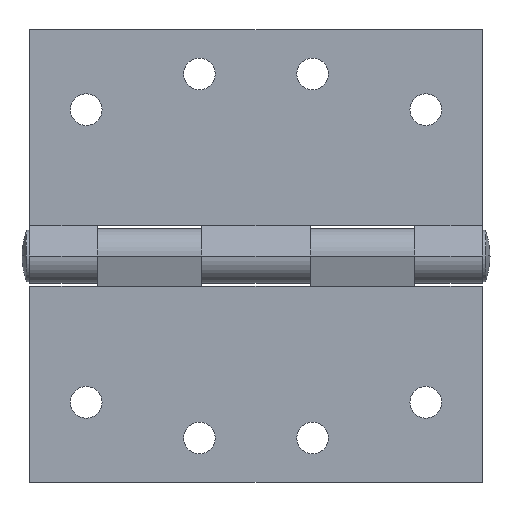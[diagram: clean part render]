
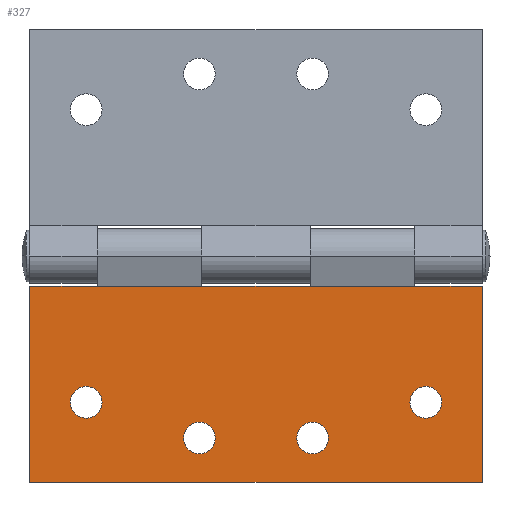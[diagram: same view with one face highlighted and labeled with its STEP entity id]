
A CAD part, front view. The second image highlights one B-rep face of the part: STEP entity #327.
In plain terms, the highlighted planar face has unit normal (0, -1, 0).
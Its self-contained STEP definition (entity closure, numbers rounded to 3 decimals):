
#8 = CARTESIAN_POINT ( 'NONE',  ( 50., -2.5, -43.37 ) ) ;
#53 = EDGE_CURVE ( 'NONE', #2864, #2883, #2210, .T. ) ;
#63 = CARTESIAN_POINT ( 'NONE',  ( 50., -2.5, 0. ) ) ;
#99 = DIRECTION ( 'NONE',  ( -1., 0., 0. ) ) ;
#124 = LINE ( 'NONE', #3688, #1813 ) ;
#153 = ORIENTED_EDGE ( 'NONE', *, *, #2624, .T. ) ;
#182 = CARTESIAN_POINT ( 'NONE',  ( 37.5, -2.5, -22.17 ) ) ;
#212 = CIRCLE ( 'NONE', #2574, 3.5 ) ;
#225 = DIRECTION ( 'NONE',  ( 0., 1., 0. ) ) ;
#327 = ADVANCED_FACE ( 'NONE', ( #2334, #2892, #1318, #3295, #1542 ), #334, .F. ) ;
#334 = PLANE ( 'NONE',  #2273 ) ;
#335 = VERTEX_POINT ( 'NONE', #3337 ) ;
#336 = EDGE_CURVE ( 'NONE', #3454, #3464, #1406, .T. ) ;
#367 = DIRECTION ( 'NONE',  ( -1., 0., 0. ) ) ;
#399 = VERTEX_POINT ( 'NONE', #3324 ) ;
#422 = DIRECTION ( 'NONE',  ( 0., 1., 0. ) ) ;
#443 = DIRECTION ( 'NONE',  ( 0., 0., 1. ) ) ;
#445 = VERTEX_POINT ( 'NONE', #1886 ) ;
#449 = CARTESIAN_POINT ( 'NONE',  ( -12.5, -2.5, -37.07 ) ) ;
#483 = ORIENTED_EDGE ( 'NONE', *, *, #1692, .T. ) ;
#488 = VERTEX_POINT ( 'NONE', #449 ) ;
#515 = EDGE_CURVE ( 'NONE', #1126, #2701, #124, .T. ) ;
#622 = ORIENTED_EDGE ( 'NONE', *, *, #336, .T. ) ;
#669 = CARTESIAN_POINT ( 'NONE',  ( 12.5, -2.5, -30.07 ) ) ;
#715 = CARTESIAN_POINT ( 'NONE',  ( -35., -2.5, 0. ) ) ;
#745 = CARTESIAN_POINT ( 'NONE',  ( 50., -2.5, 0. ) ) ;
#753 = ORIENTED_EDGE ( 'NONE', *, *, #3006, .T. ) ;
#778 = VERTEX_POINT ( 'NONE', #2363 ) ;
#785 = LINE ( 'NONE', #63, #1480 ) ;
#859 = EDGE_LOOP ( 'NONE', ( #3470, #1356 ) ) ;
#874 = VECTOR ( 'NONE', #3199, 1000. ) ;
#882 = EDGE_CURVE ( 'NONE', #488, #399, #2697, .T. ) ;
#989 = DIRECTION ( 'NONE',  ( 0., 1., 0. ) ) ;
#1086 = CARTESIAN_POINT ( 'NONE',  ( -50., -2.5, 0. ) ) ;
#1126 = VERTEX_POINT ( 'NONE', #8 ) ;
#1199 = DIRECTION ( 'NONE',  ( 0., 1., 0. ) ) ;
#1226 = VERTEX_POINT ( 'NONE', #669 ) ;
#1236 = DIRECTION ( 'NONE',  ( 0., 0., 1. ) ) ;
#1255 = DIRECTION ( 'NONE',  ( 0., 0., 1. ) ) ;
#1296 = DIRECTION ( 'NONE',  ( 0., 1., 0. ) ) ;
#1318 = FACE_BOUND ( 'NONE', #1836, .T. ) ;
#1324 = DIRECTION ( 'NONE',  ( 0., 0., 1. ) ) ;
#1351 = CARTESIAN_POINT ( 'NONE',  ( 50., -2.5, -37.37 ) ) ;
#1356 = ORIENTED_EDGE ( 'NONE', *, *, #3832, .T. ) ;
#1406 = LINE ( 'NONE', #1603, #3666 ) ;
#1416 = EDGE_CURVE ( 'NONE', #1956, #1226, #3431, .T. ) ;
#1432 = EDGE_LOOP ( 'NONE', ( #3358, #3626 ) ) ;
#1437 = LINE ( 'NONE', #2405, #1949 ) ;
#1480 = VECTOR ( 'NONE', #367, 1000. ) ;
#1509 = DIRECTION ( 'NONE',  ( 0., 1., 0. ) ) ;
#1521 = EDGE_CURVE ( 'NONE', #3733, #2517, #2463, .T. ) ;
#1531 = CIRCLE ( 'NONE', #3430, 3.5 ) ;
#1542 = FACE_OUTER_BOUND ( 'NONE', #3135, .T. ) ;
#1559 = DIRECTION ( 'NONE',  ( 0., 0., 1. ) ) ;
#1587 = CARTESIAN_POINT ( 'NONE',  ( 37.5, -2.5, -25.67 ) ) ;
#1603 = CARTESIAN_POINT ( 'NONE',  ( 50., -2.5, 0. ) ) ;
#1608 = CARTESIAN_POINT ( 'NONE',  ( 12.5, -2.5, -33.57 ) ) ;
#1623 = CARTESIAN_POINT ( 'NONE',  ( 12.5, -2.5, -37.07 ) ) ;
#1649 = DIRECTION ( 'NONE',  ( -1., 0., 0. ) ) ;
#1650 = AXIS2_PLACEMENT_3D ( 'NONE', #1608, #1296, #1324 ) ;
#1666 = EDGE_CURVE ( 'NONE', #1795, #335, #2915, .T. ) ;
#1676 = EDGE_CURVE ( 'NONE', #399, #488, #1531, .T. ) ;
#1692 = EDGE_CURVE ( 'NONE', #3464, #445, #2415, .T. ) ;
#1720 = VECTOR ( 'NONE', #1649, 1000. ) ;
#1733 = CARTESIAN_POINT ( 'NONE',  ( 37.5, -2.5, -25.67 ) ) ;
#1742 = EDGE_CURVE ( 'NONE', #2517, #2701, #1437, .T. ) ;
#1795 = VERTEX_POINT ( 'NONE', #3333 ) ;
#1813 = VECTOR ( 'NONE', #99, 1000. ) ;
#1826 = DIRECTION ( 'NONE',  ( 0., 1., 0. ) ) ;
#1836 = EDGE_LOOP ( 'NONE', ( #753, #3177 ) ) ;
#1864 = EDGE_CURVE ( 'NONE', #1126, #3454, #2184, .T. ) ;
#1865 = EDGE_CURVE ( 'NONE', #1226, #1956, #2920, .T. ) ;
#1886 = CARTESIAN_POINT ( 'NONE',  ( 12., -2.5, 0. ) ) ;
#1949 = VECTOR ( 'NONE', #2996, 1000. ) ;
#1955 = DIRECTION ( 'NONE',  ( 0., 0., 1. ) ) ;
#1956 = VERTEX_POINT ( 'NONE', #1623 ) ;
#2038 = DIRECTION ( 'NONE',  ( 0., 0., 1. ) ) ;
#2059 = AXIS2_PLACEMENT_3D ( 'NONE', #3710, #422, #2265 ) ;
#2127 = CARTESIAN_POINT ( 'NONE',  ( 50., -2.5, 0. ) ) ;
#2184 = LINE ( 'NONE', #1351, #3228 ) ;
#2210 = CIRCLE ( 'NONE', #3829, 3.5 ) ;
#2214 = DIRECTION ( 'NONE',  ( 0., 1., 0. ) ) ;
#2265 = DIRECTION ( 'NONE',  ( 0., 0., 1. ) ) ;
#2273 = AXIS2_PLACEMENT_3D ( 'NONE', #2781, #989, #1255 ) ;
#2334 = FACE_BOUND ( 'NONE', #1432, .T. ) ;
#2361 = ORIENTED_EDGE ( 'NONE', *, *, #515, .F. ) ;
#2363 = CARTESIAN_POINT ( 'NONE',  ( -12., -2.5, 0. ) ) ;
#2405 = CARTESIAN_POINT ( 'NONE',  ( -50., -2.5, -37.37 ) ) ;
#2415 = LINE ( 'NONE', #2127, #3328 ) ;
#2436 = CARTESIAN_POINT ( 'NONE',  ( -50., -2.5, -43.37 ) ) ;
#2463 = LINE ( 'NONE', #2643, #874 ) ;
#2468 = DIRECTION ( 'NONE',  ( -1., 0., 0. ) ) ;
#2517 = VERTEX_POINT ( 'NONE', #1086 ) ;
#2574 = AXIS2_PLACEMENT_3D ( 'NONE', #1587, #2785, #1559 ) ;
#2586 = ORIENTED_EDGE ( 'NONE', *, *, #1864, .T. ) ;
#2624 = EDGE_CURVE ( 'NONE', #778, #3733, #785, .T. ) ;
#2643 = CARTESIAN_POINT ( 'NONE',  ( 50., -2.5, 0. ) ) ;
#2676 = EDGE_LOOP ( 'NONE', ( #3182, #2751 ) ) ;
#2697 = CIRCLE ( 'NONE', #3108, 3.5 ) ;
#2701 = VERTEX_POINT ( 'NONE', #2436 ) ;
#2751 = ORIENTED_EDGE ( 'NONE', *, *, #1416, .T. ) ;
#2781 = CARTESIAN_POINT ( 'NONE',  ( 50., -2.5, -37.37 ) ) ;
#2785 = DIRECTION ( 'NONE',  ( 0., 1., 0. ) ) ;
#2819 = CARTESIAN_POINT ( 'NONE',  ( 50., -2.5, 0. ) ) ;
#2841 = AXIS2_PLACEMENT_3D ( 'NONE', #3850, #1826, #1236 ) ;
#2864 = VERTEX_POINT ( 'NONE', #3141 ) ;
#2883 = VERTEX_POINT ( 'NONE', #182 ) ;
#2892 = FACE_BOUND ( 'NONE', #2676, .T. ) ;
#2915 = CIRCLE ( 'NONE', #2841, 3.5 ) ;
#2920 = CIRCLE ( 'NONE', #2059, 3.5 ) ;
#2983 = DIRECTION ( 'NONE',  ( -1., 0., 0. ) ) ;
#2996 = DIRECTION ( 'NONE',  ( 0., 0., -1. ) ) ;
#3006 = EDGE_CURVE ( 'NONE', #2883, #2864, #212, .T. ) ;
#3015 = DIRECTION ( 'NONE',  ( 0., 0., 1. ) ) ;
#3017 = ORIENTED_EDGE ( 'NONE', *, *, #1742, .T. ) ;
#3108 = AXIS2_PLACEMENT_3D ( 'NONE', #3264, #1509, #3307 ) ;
#3135 = EDGE_LOOP ( 'NONE', ( #3017, #2361, #2586, #622, #483, #3652, #153, #3595 ) ) ;
#3141 = CARTESIAN_POINT ( 'NONE',  ( 37.5, -2.5, -29.17 ) ) ;
#3177 = ORIENTED_EDGE ( 'NONE', *, *, #53, .T. ) ;
#3182 = ORIENTED_EDGE ( 'NONE', *, *, #1865, .T. ) ;
#3199 = DIRECTION ( 'NONE',  ( -1., 0., 0. ) ) ;
#3228 = VECTOR ( 'NONE', #443, 1000. ) ;
#3264 = CARTESIAN_POINT ( 'NONE',  ( -12.5, -2.5, -33.57 ) ) ;
#3295 = FACE_BOUND ( 'NONE', #859, .T. ) ;
#3307 = DIRECTION ( 'NONE',  ( 0., 0., 1. ) ) ;
#3324 = CARTESIAN_POINT ( 'NONE',  ( -12.5, -2.5, -30.07 ) ) ;
#3328 = VECTOR ( 'NONE', #2983, 1000. ) ;
#3333 = CARTESIAN_POINT ( 'NONE',  ( -37.5, -2.5, -22.17 ) ) ;
#3337 = CARTESIAN_POINT ( 'NONE',  ( -37.5, -2.5, -29.17 ) ) ;
#3358 = ORIENTED_EDGE ( 'NONE', *, *, #1676, .T. ) ;
#3387 = AXIS2_PLACEMENT_3D ( 'NONE', #3706, #2214, #1955 ) ;
#3430 = AXIS2_PLACEMENT_3D ( 'NONE', #3564, #1199, #3015 ) ;
#3431 = CIRCLE ( 'NONE', #1650, 3.5 ) ;
#3448 = EDGE_CURVE ( 'NONE', #445, #778, #3842, .T. ) ;
#3454 = VERTEX_POINT ( 'NONE', #2819 ) ;
#3464 = VERTEX_POINT ( 'NONE', #3469 ) ;
#3469 = CARTESIAN_POINT ( 'NONE',  ( 35., -2.5, 0. ) ) ;
#3470 = ORIENTED_EDGE ( 'NONE', *, *, #1666, .T. ) ;
#3564 = CARTESIAN_POINT ( 'NONE',  ( -12.5, -2.5, -33.57 ) ) ;
#3595 = ORIENTED_EDGE ( 'NONE', *, *, #1521, .T. ) ;
#3611 = CIRCLE ( 'NONE', #3387, 3.5 ) ;
#3626 = ORIENTED_EDGE ( 'NONE', *, *, #882, .T. ) ;
#3652 = ORIENTED_EDGE ( 'NONE', *, *, #3448, .T. ) ;
#3666 = VECTOR ( 'NONE', #2468, 1000. ) ;
#3688 = CARTESIAN_POINT ( 'NONE',  ( 50., -2.5, -43.37 ) ) ;
#3706 = CARTESIAN_POINT ( 'NONE',  ( -37.5, -2.5, -25.67 ) ) ;
#3710 = CARTESIAN_POINT ( 'NONE',  ( 12.5, -2.5, -33.57 ) ) ;
#3733 = VERTEX_POINT ( 'NONE', #715 ) ;
#3829 = AXIS2_PLACEMENT_3D ( 'NONE', #1733, #225, #2038 ) ;
#3832 = EDGE_CURVE ( 'NONE', #335, #1795, #3611, .T. ) ;
#3842 = LINE ( 'NONE', #745, #1720 ) ;
#3850 = CARTESIAN_POINT ( 'NONE',  ( -37.5, -2.5, -25.67 ) ) ;
